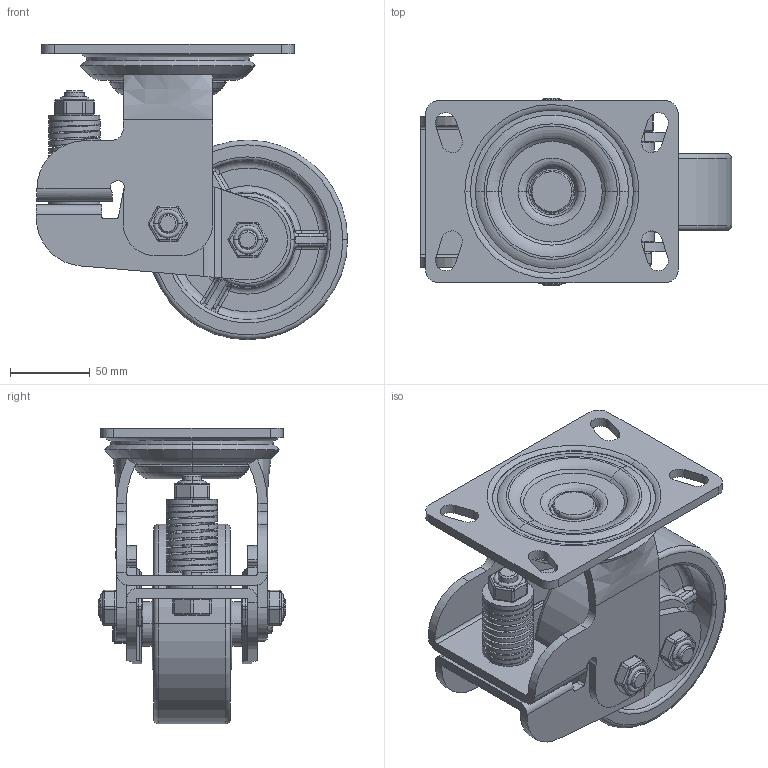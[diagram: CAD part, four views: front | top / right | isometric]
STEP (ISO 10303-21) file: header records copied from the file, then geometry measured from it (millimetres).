
FILE_DESCRIPTION(/* description */ (''),/* implementation_level */ '2;1');
FILE_NAME(/* name */ '45A01_5_F.stp',/* time_stamp */ '2022-08-29T11:10:31+08:00',/* author */ (''),/* organization */ (''),/* preprocessor_version */ 'ST-DEVELOPER v14',/* originating_system */ 'SIEMENS PLM Software NX 8.0',/* authorisation */ '');
FILE_SCHEMA (('AUTOMOTIVE_DESIGN { 1 0 10303 214 3 1 1 1 }'));
Length unit declared in the file: millimetre
Products named in the file (1): 45A01_5_F
Bounding box: 194.85 x 117.38 x 185 mm (x, y, z)
Volume: 894118.1 mm3; surface area: 216881.1 mm2
Topology: 1 solids, 4 shells, 892 faces, 2180 edges, 1340 vertices
Faces by surface type: plane 350, cylinder 262, bspline 133, torus 81, cone 66
Entity records: 34113 total; most frequent: CARTESIAN_POINT 14058, ORIENTED_EDGE 4360, DIRECTION 3961, EDGE_CURVE 2180, AXIS2_PLACEMENT_3D 1524, VERTEX_POINT 1340, EDGE_LOOP 958, LINE 913
